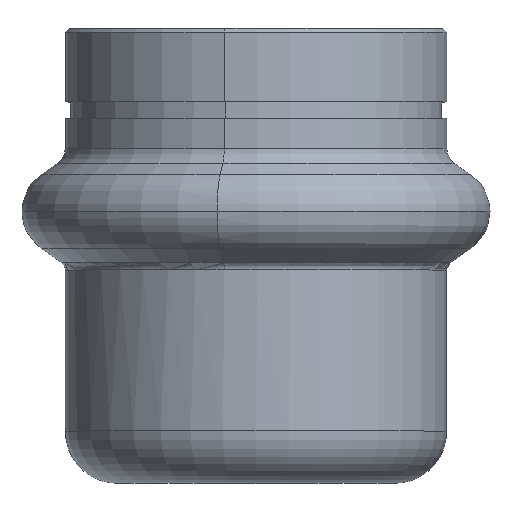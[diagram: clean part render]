
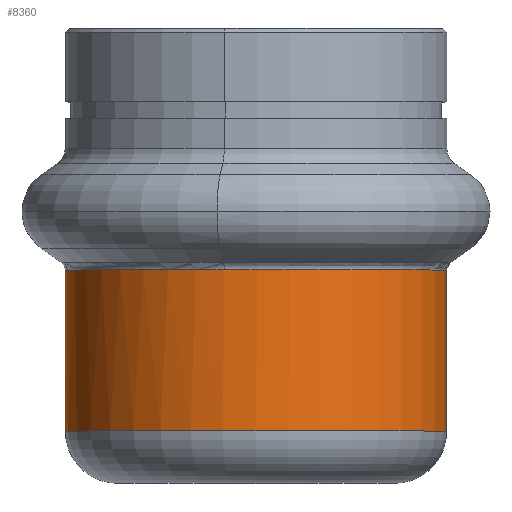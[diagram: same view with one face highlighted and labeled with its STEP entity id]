
A CAD part, top view. The second image highlights one B-rep face of the part: STEP entity #8360.
In plain terms, the highlighted cylindrical face has radius 10.425 mm (diameter 20.85 mm), a partial arc.
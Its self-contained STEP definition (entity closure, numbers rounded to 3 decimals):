
#1580=CARTESIAN_POINT('',(10.425,8.805,0.));
#1590=DIRECTION('',(0.,1.,0.));
#1600=DIRECTION('',(-0.167,0.,0.986));
#1610=AXIS2_PLACEMENT_3D('',#1580,#1590,#1600);
#1620=CIRCLE('',#1610,10.425);
#1650=CARTESIAN_POINT('',(0.,8.805,0.));
#1660=VERTEX_POINT('',#1650);
#1920=CARTESIAN_POINT('',(8.687,8.805,
10.279));
#1930=VERTEX_POINT('',#1920);
#1960=EDGE_CURVE('',#1660,#1930,#1620,.T.);
#6720=CARTESIAN_POINT('',(10.425,0.,0.));
#6730=DIRECTION('',(0.,-1.,0.));
#6740=DIRECTION('',(1.,0.,0.));
#6750=AXIS2_PLACEMENT_3D('',#6720,#6730,#6740);
#6760=CYLINDRICAL_SURFACE('',#6750,10.425);
#6770=CARTESIAN_POINT('',(20.85,0.,0.));
#6780=DIRECTION('',(0.,-1.,0.));
#6790=VECTOR('',#6780,1.);
#6800=LINE('',#6770,#6790);
#6810=CARTESIAN_POINT('',(20.85,8.805,0.));
#6820=VERTEX_POINT('',#6810);
#6830=CARTESIAN_POINT('',(20.85,0.,0.));
#6840=VERTEX_POINT('',#6830);
#6850=EDGE_CURVE('',#6820,#6840,#6800,.T.);
#6900=CARTESIAN_POINT('',(0.,0.,0.));
#6910=DIRECTION('',(0.,-1.,0.));
#6920=VECTOR('',#6910,1.);
#6930=LINE('',#6900,#6920);
#6940=CARTESIAN_POINT('',(0.,0.,0.))
;
#6950=VERTEX_POINT('',#6940);
#6960=EDGE_CURVE('',#1660,#6950,#6930,.T.);
#6980=CARTESIAN_POINT('',(10.425,0.,0.));
#6990=DIRECTION('',(0.,-1.,0.));
#7000=DIRECTION('',(1.,0.,0.));
#7010=AXIS2_PLACEMENT_3D('',#6980,#6990,#7000);
#7020=CIRCLE('',#7010,10.425);
#8270=EDGE_CURVE('',#1930,#6820,#1620,.T.);
#8280=ORIENTED_EDGE('',*,*,#8270,.F.);
#8290=ORIENTED_EDGE('',*,*,#6850,.F.);
#8300=EDGE_CURVE('',#6840,#6950,#7020,.T.);
#8310=ORIENTED_EDGE('',*,*,#8300,.F.);
#8320=ORIENTED_EDGE('',*,*,#6960,.T.);
#8330=ORIENTED_EDGE('',*,*,#1960,.F.);
#8340=EDGE_LOOP('',(#8330,#8320,#8310,#8290,#8280));
#8350=FACE_OUTER_BOUND('',#8340,.T.);
#8360=ADVANCED_FACE('',(#8350),#6760,.T.);
